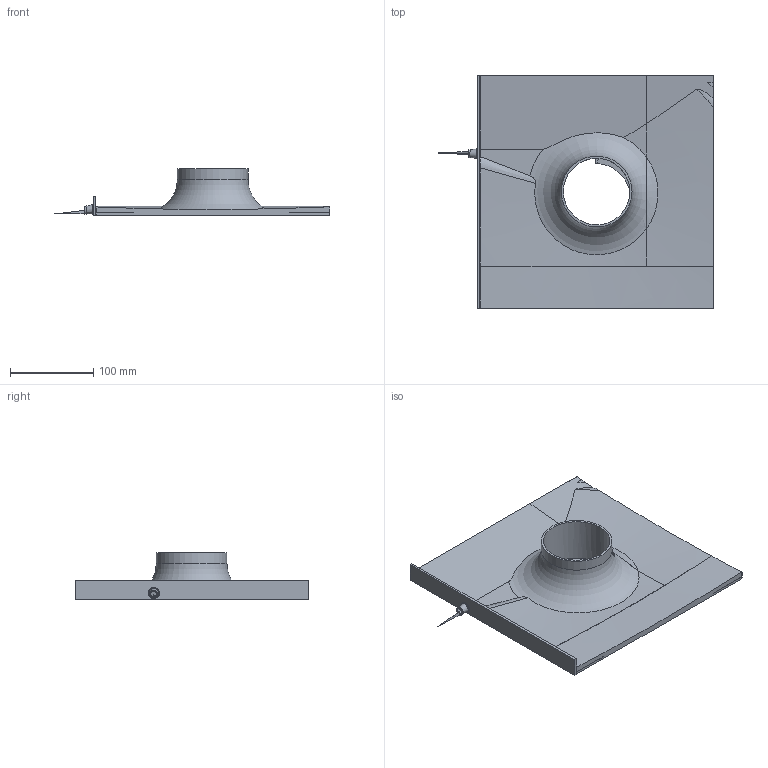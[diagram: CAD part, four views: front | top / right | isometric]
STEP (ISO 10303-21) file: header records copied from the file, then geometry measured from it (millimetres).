
FILE_DESCRIPTION(/* description */ (''),/* implementation_level */ '2;1');
FILE_NAME(/* name */ 'skirt v4.step',/* time_stamp */ '2023-06-06T07:01:22-04:00',/* author */ (''),/* organization */ (''),/* preprocessor_version */ 'ST-DEVELOPER v19.2',/* originating_system */ 'Autodesk Translation Framework v12.6.0.85',/* authorisation */ '');
FILE_SCHEMA (('AUTOMOTIVE_DESIGN { 1 0 10303 214 3 1 1 }'));
Length unit declared in the file: millimetre
Products named in the file (1): skirt
Bounding box: 331.3 x 280.9 x 56 mm (x, y, z)
Volume: 602042.2 mm3; surface area: 207048.3 mm2
Topology: 5 solids, 5 shells, 86 faces, 230 edges, 153 vertices
Faces by surface type: plane 47, cone 14, cylinder 10, bspline 9, torus 6
Full cylindrical faces by diameter (mm): 9.6 x1, 80 x1, 85 x1
Entity records: 3776 total; most frequent: CARTESIAN_POINT 1765, ORIENTED_EDGE 460, DIRECTION 345, EDGE_CURVE 230, VERTEX_POINT 153, AXIS2_PLACEMENT_3D 124, LINE 97, VECTOR 97
